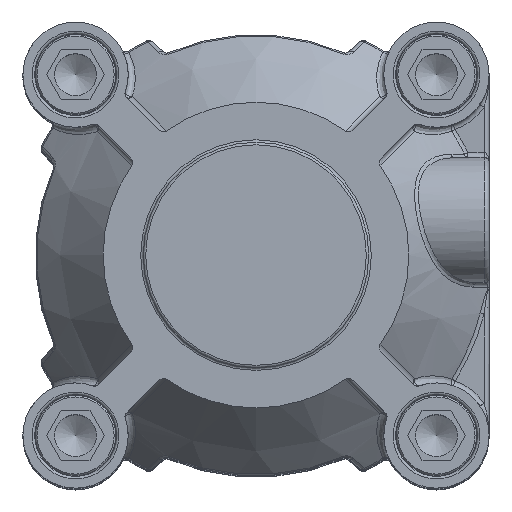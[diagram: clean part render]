
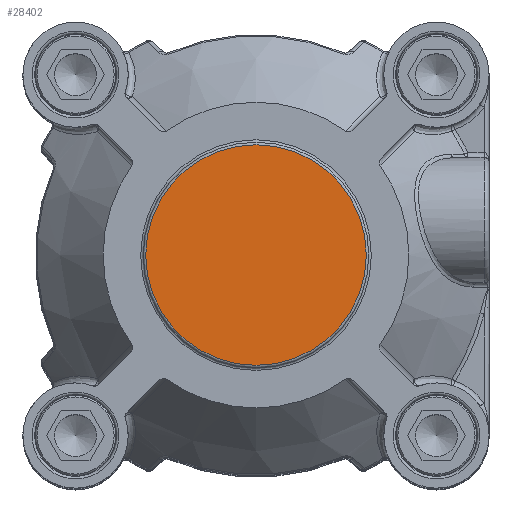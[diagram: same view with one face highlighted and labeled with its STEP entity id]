
A CAD part, top view. The second image highlights one B-rep face of the part: STEP entity #28402.
In plain terms, the highlighted planar face has unit normal (0, 0, 1).
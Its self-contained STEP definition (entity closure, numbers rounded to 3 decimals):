
#3739=PLANE('',#30355);
#8268=ORIENTED_EDGE('',*,*,#12156,.F.);
#8269=ORIENTED_EDGE('',*,*,#12157,.F.);
#12156=EDGE_CURVE('',#14394,#14395,#15613,.T.);
#12157=EDGE_CURVE('',#14395,#14394,#15614,.T.);
#14394=VERTEX_POINT('',#47271);
#14395=VERTEX_POINT('',#47272);
#15613=CIRCLE('',#30356,22.);
#15614=CIRCLE('',#30357,22.);
#17011=EDGE_LOOP('',(#8268,#8269));
#18471=FACE_BOUND('',#17011,.T.);
#28402=ADVANCED_FACE('',(#18471),#3739,.F.);
#30355=AXIS2_PLACEMENT_3D('',#47269,#34801,#34802);
#30356=AXIS2_PLACEMENT_3D('',#47270,#34803,#34804);
#30357=AXIS2_PLACEMENT_3D('',#47273,#34805,#34806);
#34801=DIRECTION('',(0.,0.,-1.));
#34802=DIRECTION('',(-1.,0.,0.));
#34803=DIRECTION('',(0.,0.,-1.));
#34804=DIRECTION('',(1.,0.,0.));
#34805=DIRECTION('',(0.,0.,-1.));
#34806=DIRECTION('',(1.,0.,0.));
#47269=CARTESIAN_POINT('',(104.963,0.,52.));
#47270=CARTESIAN_POINT('',(0.,0.,52.));
#47271=CARTESIAN_POINT('',(-22.,0.,52.));
#47272=CARTESIAN_POINT('',(22.,0.,52.));
#47273=CARTESIAN_POINT('',(0.,0.,52.));
